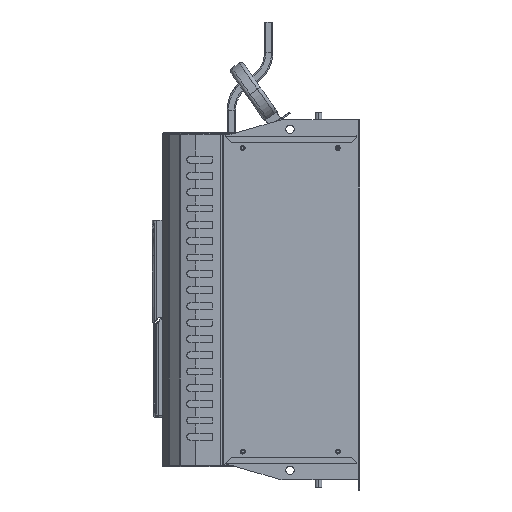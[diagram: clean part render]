
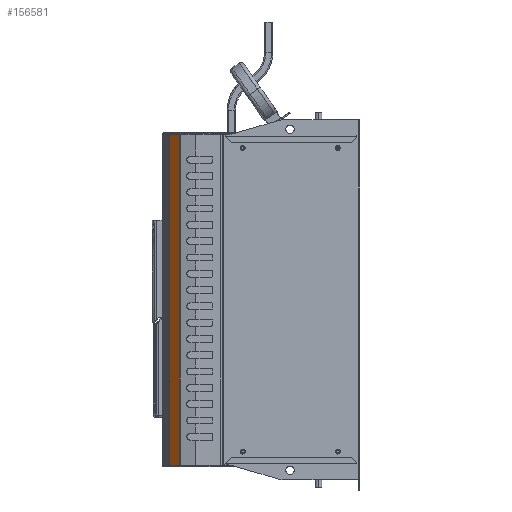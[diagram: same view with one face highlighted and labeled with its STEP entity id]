
A CAD part, left-side view. The second image highlights one B-rep face of the part: STEP entity #156581.
In plain terms, the highlighted planar face has unit normal (-0.707, 0.707, 0).
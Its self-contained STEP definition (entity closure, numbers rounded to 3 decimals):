
#4032 = EDGE_CURVE ( 'NONE', #22457, #22266, #127689, .T. ) ;
#4036 = EDGE_CURVE ( 'NONE', #22016, #22449, #127802, .T. ) ;
#4040 = EDGE_CURVE ( 'NONE', #22016, #22266, #127782, .T. ) ;
#4041 = EDGE_CURVE ( 'NONE', #22449, #22457, #127073, .T. ) ;
#14922 = AXIS2_PLACEMENT_3D ( 'NONE', #225870, #225846, #225844 ) ;
#22016 = VERTEX_POINT ( 'NONE', #107595 ) ;
#22266 = VERTEX_POINT ( 'NONE', #107221 ) ;
#22449 = VERTEX_POINT ( 'NONE', #106994 ) ;
#22457 = VERTEX_POINT ( 'NONE', #106987 ) ;
#37351 = FACE_OUTER_BOUND ( 'NONE', #110732, .T. ) ;
#106987 = CARTESIAN_POINT ( 'NONE',  ( -192.745, 280.944, -243.5 ) ) ;
#106994 = CARTESIAN_POINT ( 'NONE',  ( -192.745, 280.944, 243.5 ) ) ;
#107221 = CARTESIAN_POINT ( 'NONE',  ( -208.573, 265.116, -243.5 ) ) ;
#107595 = CARTESIAN_POINT ( 'NONE',  ( -208.573, 265.116, 243.5 ) ) ;
#110732 = EDGE_LOOP ( 'NONE', ( #246844, #246847, #246850, #246852 ) ) ;
#127073 = LINE ( 'NONE', #179389, #127214 ) ;
#127214 = VECTOR ( 'NONE', #179376, 1000. ) ;
#127689 = LINE ( 'NONE', #179434, #127694 ) ;
#127694 = VECTOR ( 'NONE', #179429, 1000. ) ;
#127782 = LINE ( 'NONE', #179396, #127817 ) ;
#127802 = LINE ( 'NONE', #179408, #127808 ) ;
#127808 = VECTOR ( 'NONE', #179406, 1000. ) ;
#127817 = VECTOR ( 'NONE', #179384, 1000. ) ;
#156581 = ADVANCED_FACE ( 'NONE', ( #37351 ), #225868, .T. ) ;
#179376 = DIRECTION ( 'NONE',  ( 0., 0., -1. ) ) ;
#179384 = DIRECTION ( 'NONE',  ( 0., 0., -1. ) ) ;
#179389 = CARTESIAN_POINT ( 'NONE',  ( -192.745, 280.944, 243.5 ) ) ;
#179396 = CARTESIAN_POINT ( 'NONE',  ( -208.573, 265.116, 243.5 ) ) ;
#179406 = DIRECTION ( 'NONE',  ( 0.707, 0.707, 0. ) ) ;
#179408 = CARTESIAN_POINT ( 'NONE',  ( -192.439, 281.25, 243.5 ) ) ;
#179429 = DIRECTION ( 'NONE',  ( -0.707, -0.707, 0. ) ) ;
#179434 = CARTESIAN_POINT ( 'NONE',  ( -192.439, 281.25, -243.5 ) ) ;
#225844 = DIRECTION ( 'NONE',  ( -0.707, -0.707, 0. ) ) ;
#225846 = DIRECTION ( 'NONE',  ( -0.707, 0.707, 0. ) ) ;
#225868 = PLANE ( 'NONE',  #14922 ) ;
#225870 = CARTESIAN_POINT ( 'NONE',  ( -192.439, 281.25, 243.5 ) ) ;
#246844 = ORIENTED_EDGE ( 'NONE', *, *, #4041, .T. ) ;
#246847 = ORIENTED_EDGE ( 'NONE', *, *, #4032, .T. ) ;
#246850 = ORIENTED_EDGE ( 'NONE', *, *, #4040, .F. ) ;
#246852 = ORIENTED_EDGE ( 'NONE', *, *, #4036, .T. ) ;
